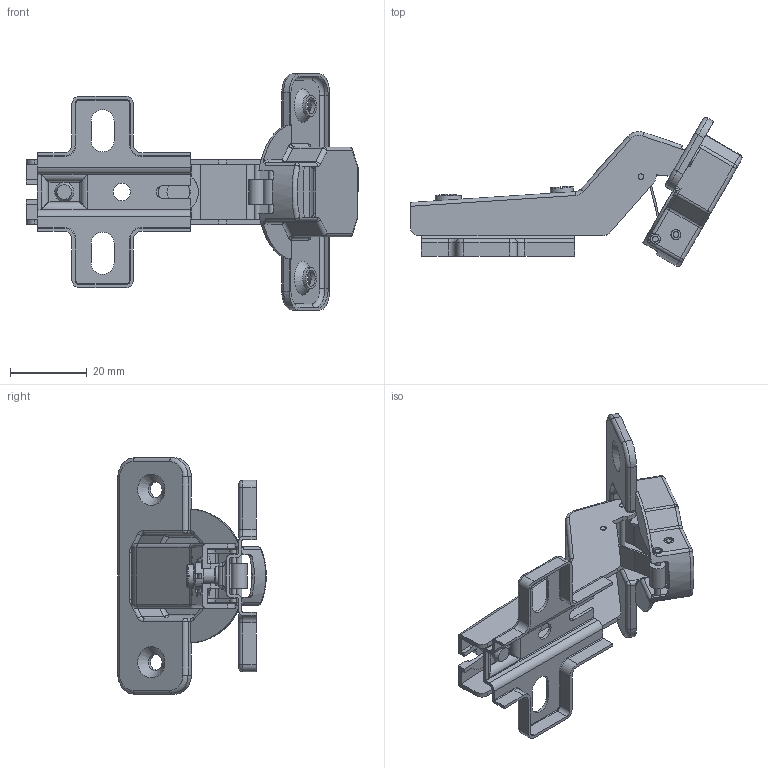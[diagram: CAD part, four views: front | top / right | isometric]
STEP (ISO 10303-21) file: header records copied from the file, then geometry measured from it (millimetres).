
FILE_DESCRIPTION(/* description */ (''),/* implementation_level */ '2;1');
FILE_NAME(/* name */ 'W:\R&D\pub\Katalog techniczny\bryły 3D\ZP-KT30H2-BE.stp',/* time_stamp */ '2016-09-14T10:26:59+02:00',/* author */ ('tomaszw'),/* organization */ (''),/* preprocessor_version */ 'ST-DEVELOPER v16.1',/* originating_system */ 'Autodesk Inventor 2016',/* authorisation */ '');
FILE_SCHEMA (('AUTOMOTIVE_DESIGN { 1 0 10303 214 3 1 1 }'));
Length unit declared in the file: millimetre
Products named in the file (10): ZP-KT-P; ZP-KT30; ZP-KT_1; ZP-KT_3; ZP-KT_Pin2; ZP-KT_Pin1; Wkret4x6; ZP-KT_P; ZP-KT_5; ZP-KT135(45)(30)-ZE(BE)
Assembly tree (11 placements, depth 2):
  ZP-KT135(45)(30)-ZE(BE)
    ZP-KT-P
    ZP-KT30
    ZP-KT_1
    ZP-KT_3
    ZP-KT_Pin2  x2
    ZP-KT_Pin1  x2
    Wkret4x6
    ZP-KT_P
    ZP-KT_5
Bounding box: 86.63 x 38.69 x 61.7 mm (x, y, z)
Volume: 7784.2 mm3; surface area: 17917 mm2
Topology: 11 solids, 11 shells, 549 faces, 1374 edges, 833 vertices
Faces by surface type: cylinder 232, plane 198, torus 56, bspline 27, sphere 26, cone 10
Full cylindrical faces by diameter (mm): 1.5 x13, 2.6 x4, 3.5 x1, 4 x1, 4.2 x2, 4.5 x1, 5 x1, 5.6 x2, 6 x1, 6.069 x1, 7 x1, 10.4 x1
Entity records: 17355 total; most frequent: CARTESIAN_POINT 3709, DIRECTION 2937, ORIENTED_EDGE 2632, EDGE_CURVE 1316, AXIS2_PLACEMENT_3D 1127, VERTEX_POINT 820, LINE 683, VECTOR 683
